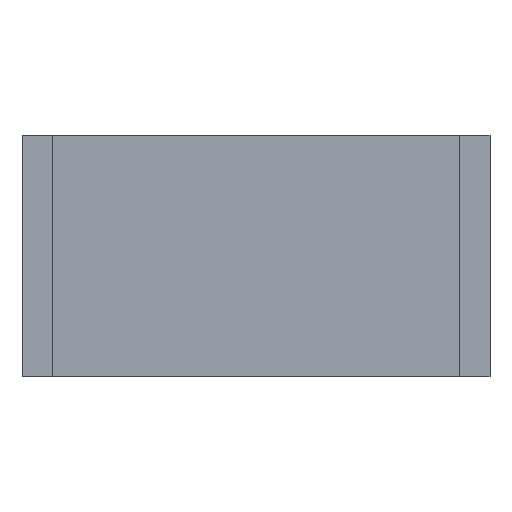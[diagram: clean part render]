
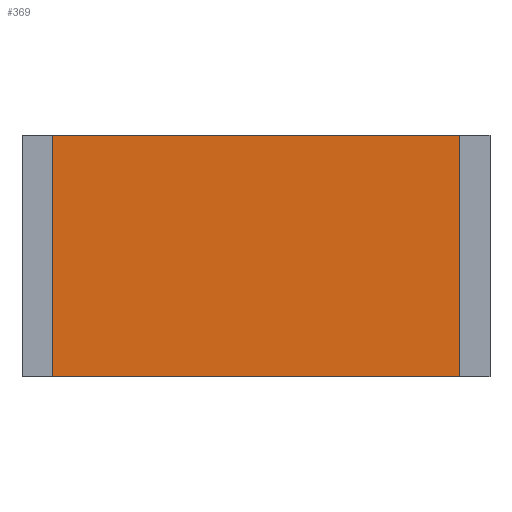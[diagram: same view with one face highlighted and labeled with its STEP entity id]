
A CAD part, top view. The second image highlights one B-rep face of the part: STEP entity #369.
In plain terms, the highlighted planar face has unit normal (0, 0, 1).
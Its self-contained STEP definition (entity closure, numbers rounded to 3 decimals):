
#369=ADVANCED_FACE('',(#766),#768,.F.);
#766=FACE_BOUND('',#767,.T.);
#767=EDGE_LOOP('',(#1050,#1051,#1052,#1053));
#768=PLANE('',#769);
#769=AXIS2_PLACEMENT_3D('',#770,#771,#772);
#770=CARTESIAN_POINT('',(0.,0.,0.6));
#771=DIRECTION('',(0.,0.,-1.));
#772=DIRECTION('',(1.,0.,0.));
#1050=ORIENTED_EDGE('',*,*,#1226,.F.);
#1051=ORIENTED_EDGE('',*,*,#1223,.F.);
#1052=ORIENTED_EDGE('',*,*,#1220,.F.);
#1053=ORIENTED_EDGE('',*,*,#1216,.F.);
#1216=EDGE_CURVE('',#1379,#1380,#1381,.T.);
#1220=EDGE_CURVE('',#1380,#1387,#1388,.T.);
#1223=EDGE_CURVE('',#1387,#1392,#1393,.T.);
#1226=EDGE_CURVE('',#1392,#1379,#1397,.T.);
#1379=VERTEX_POINT('',#1704);
#1380=VERTEX_POINT('',#1705);
#1381=LINE('',#1706,#1707);
#1387=VERTEX_POINT('',#1720);
#1388=LINE('',#1721,#1722);
#1392=VERTEX_POINT('',#1731);
#1393=LINE('',#1732,#1733);
#1397=LINE('',#1742,#1743);
#1704=CARTESIAN_POINT('',(2.7,-1.6,0.6));
#1705=CARTESIAN_POINT('',(-2.7,-1.6,0.6));
#1706=CARTESIAN_POINT('',(2.7,-1.6,0.6));
#1707=VECTOR('',#1708,1.);
#1708=DIRECTION('',(-1.,0.,0.));
#1720=CARTESIAN_POINT('',(-2.7,1.6,0.6));
#1721=CARTESIAN_POINT('',(-2.7,-1.6,0.6));
#1722=VECTOR('',#1723,1.);
#1723=DIRECTION('',(0.,1.,0.));
#1731=CARTESIAN_POINT('',(2.7,1.6,0.6));
#1732=CARTESIAN_POINT('',(-2.7,1.6,0.6));
#1733=VECTOR('',#1734,1.);
#1734=DIRECTION('',(1.,0.,0.));
#1742=CARTESIAN_POINT('',(2.7,1.6,0.6));
#1743=VECTOR('',#1744,1.);
#1744=DIRECTION('',(0.,-1.,0.));
